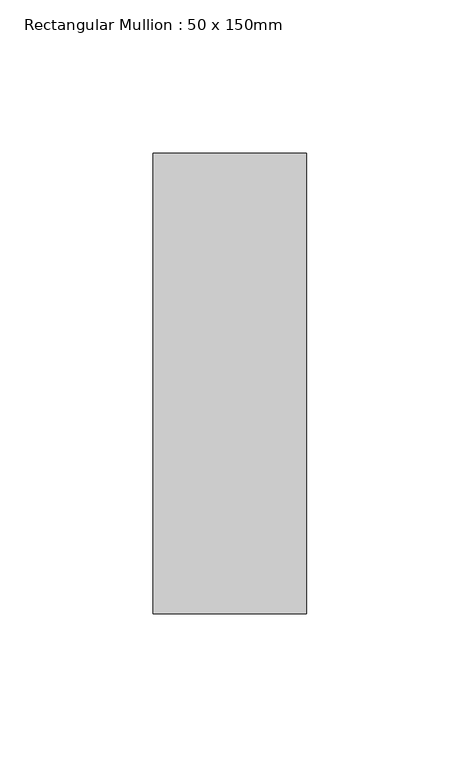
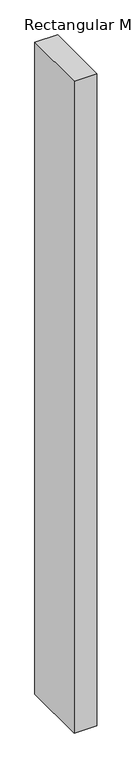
"""IFC4 building model written with IfcOpenShell, lengths in millimetres: member geometry, Rectangular Mullion : 50 x 150mm."""

from ifc_helpers import new_model, si_unit, frame, origin, place, context, project, spatial, polyline, outline, extrude, source, transform, mapped, element, save


def rectangular_mullion_50_x_150mm_6261b450(model_context):
    return source(origin(), model_context, "Body", "SweptSolid", [
        extrude(outline(polyline([(25.0, 75.0), (25.0, -75.0), (-25.0, -75.0), (-25.0, 75.0), (25.0, 75.0)])), frame((0.0, 0.0, -1523.7250795), z_axis=(0.0, 0.0, 1.0), x_axis=(1.0, 0.0, 0.0)), (0.0, 0.0, 1.0), 1523.7250795),
    ])


if __name__ == "__main__":
    model = new_model("IFC4")
    model_context = context("Model", 3, world=origin())
    ifc_project = project(units=[si_unit("LENGTHUNIT", "METRE", prefix="MILLI")], contexts=[model_context])
    site = spatial("IfcSite", under=ifc_project)
    building = spatial("IfcBuilding", under=site)
    placement = place(None, origin())
    rectangular_mullion_50_x_150mm_shape = rectangular_mullion_50_x_150mm_6261b450(model_context)
    element("IfcMember", 1, ObjectType="Rectangular Mullion : 50 x 150mm", at=placement, inside=building, context=model_context, shape_type="MappedRepresentation", body=[
        mapped(rectangular_mullion_50_x_150mm_shape, transform((0.0, 0.0, 0.0), x_axis=(1.0, 0.0, 0.0), y_axis=(0.0, 1.0, 0.0), z_axis=(0.0, 0.0, 1.0))),
    ])
    save(model, "model.ifc")
